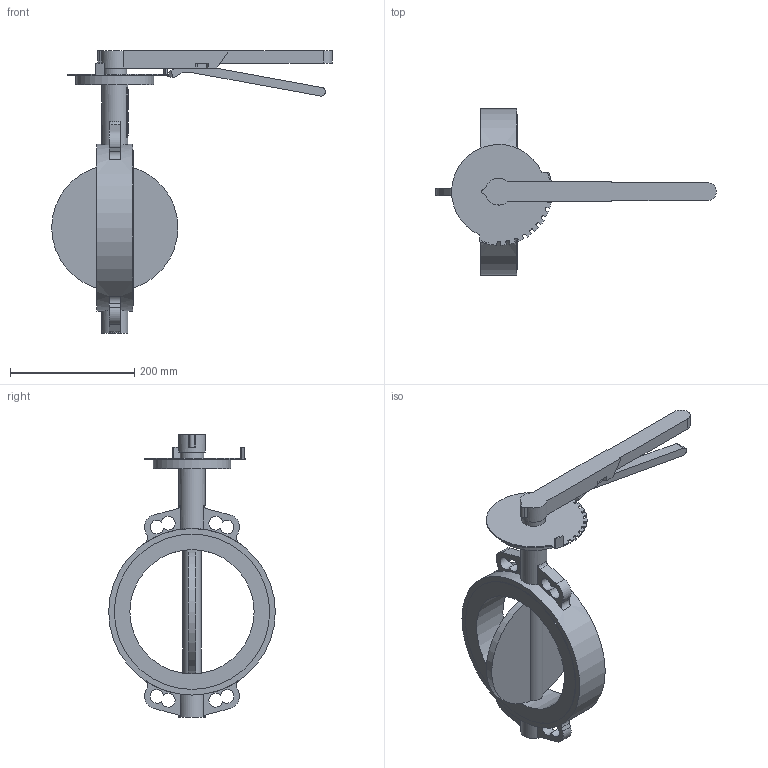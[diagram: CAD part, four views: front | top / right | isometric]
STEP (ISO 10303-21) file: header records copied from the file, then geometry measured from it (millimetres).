
FILE_DESCRIPTION(('STEP AP203'), '1');
FILE_NAME('青蜮铕 015WDN200', '', ('UNSPECIFIED'), ('UNSPECIFIED'), 'ASCON STEP Converter 1.6', 'ASCON Math Kernel', '');
FILE_SCHEMA(('CONFIG_CONTROL_DESIGN'));
Length unit declared in the file: millimetre
Bounding box: 451.5 x 268 x 455 mm (x, y, z)
Volume: 392465.6 mm3; surface area: 376849.1 mm2
Topology: 1 solids, 2 shells, 774 faces, 2283 edges, 1475 vertices
Faces by surface type: cylinder 535, plane 233, bspline 6
Full cylindrical faces by diameter (mm): 12 x4, 22.1 x1, 38 x1, 42 x2, 70 x1, 125 x1, 200 x1, 250 x2, 268 x1
Entity records: 34049 total; most frequent: CARTESIAN_POINT 6211, DIRECTION 4896, ORIENTED_EDGE 4477, EDGE_CURVE 2270, AXIS2_PLACEMENT_3D 1895, VERTEX_POINT 1475, CIRCLE 1126, LINE 1106
